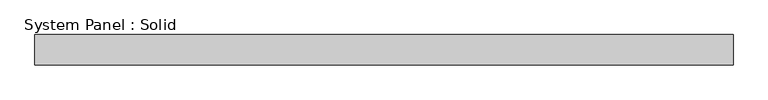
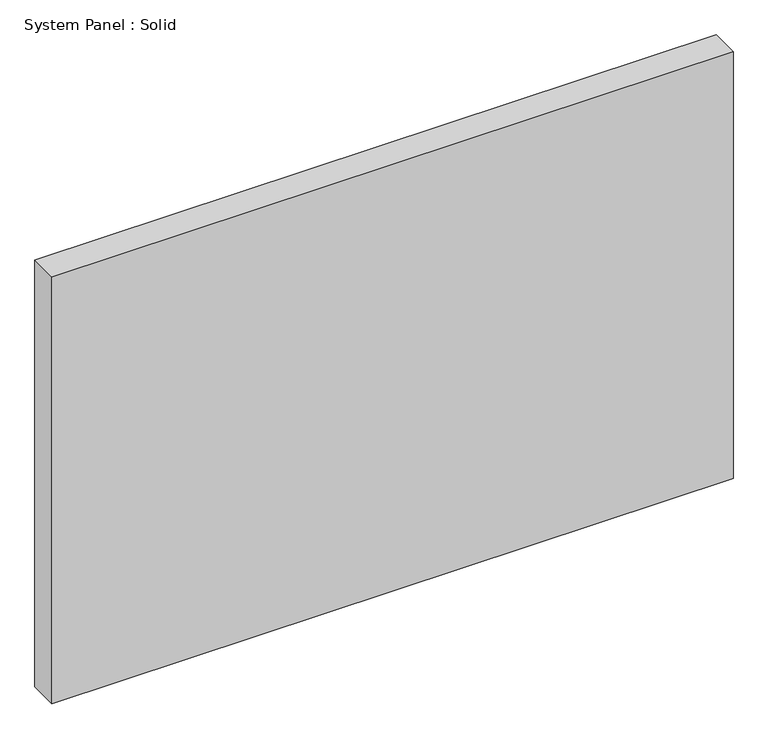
"""IFC4 building model written with IfcOpenShell, lengths in millimetres: plate geometry, System Panel : Solid."""

from ifc_helpers import new_model, si_unit, origin, origin_with_axes, place, context, project, spatial, polyline, outline, extrude, source, transform, mapped, element, save


def system_panel_solid_060e9704(model_context):
    return source(origin(), model_context, "Body", "SweptSolid", [
        extrude(outline(polyline([(733.425, -19.05), (-733.425, -19.05), (-733.425, 44.45), (733.425, 44.45), (733.425, -19.05)])), origin_with_axes(), (0.0, 0.0, 1.0), 971.55),
    ])


if __name__ == "__main__":
    model = new_model("IFC4")
    model_context = context("Model", 3, world=origin())
    ifc_project = project(units=[si_unit("LENGTHUNIT", "METRE", prefix="MILLI")], contexts=[model_context])
    site = spatial("IfcSite", under=ifc_project)
    building = spatial("IfcBuilding", under=site)
    placement = place(None, origin())
    system_panel_solid_shape = system_panel_solid_060e9704(model_context)
    element("IfcPlate", 1, ObjectType="System Panel : Solid", at=placement, inside=building, context=model_context, shape_type="MappedRepresentation", body=[
        mapped(system_panel_solid_shape, transform((0.0, 0.0, 0.0), x_axis=(1.0, 0.0, 0.0), y_axis=(0.0, 1.0, 0.0), z_axis=(0.0, 0.0, 1.0))),
    ])
    save(model, "model.ifc")
